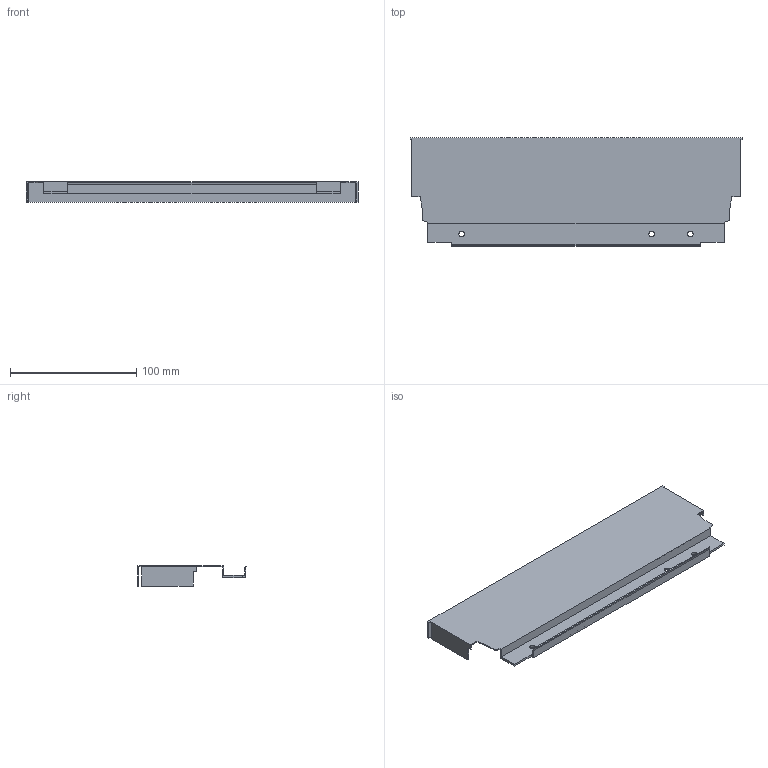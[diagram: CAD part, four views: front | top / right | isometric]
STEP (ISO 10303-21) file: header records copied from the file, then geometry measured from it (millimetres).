
FILE_DESCRIPTION (( 'STEP AP214' ), '1' );
FILE_NAME ('_DWD_XP Stahlrückwand_H86_KAB350_S19.step', '2010-07-08T12:10:30', ( 'grass' ), ( '' ), 'SwSTEP 2.0', 'SolidWorks 2010', '' );
FILE_SCHEMA (( 'AUTOMOTIVE_DESIGN' ));
Length unit declared in the file: millimetre
Products named in the file (1): _DWD_XP Stahlrückwand_H86_KAB350_S19
Bounding box: 263 x 85.79 x 16 mm (x, y, z)
Volume: 27482.6 mm3; surface area: 60622.2 mm2
Topology: 1 solids, 1 shells, 50 faces, 144 edges, 96 vertices
Faces by surface type: plane 44, cylinder 6
Entity records: 1666 total; most frequent: CARTESIAN_POINT 291, ORIENTED_EDGE 288, DIRECTION 258, EDGE_CURVE 144, LINE 132, VECTOR 132, VERTEX_POINT 96, AXIS2_PLACEMENT_3D 63
